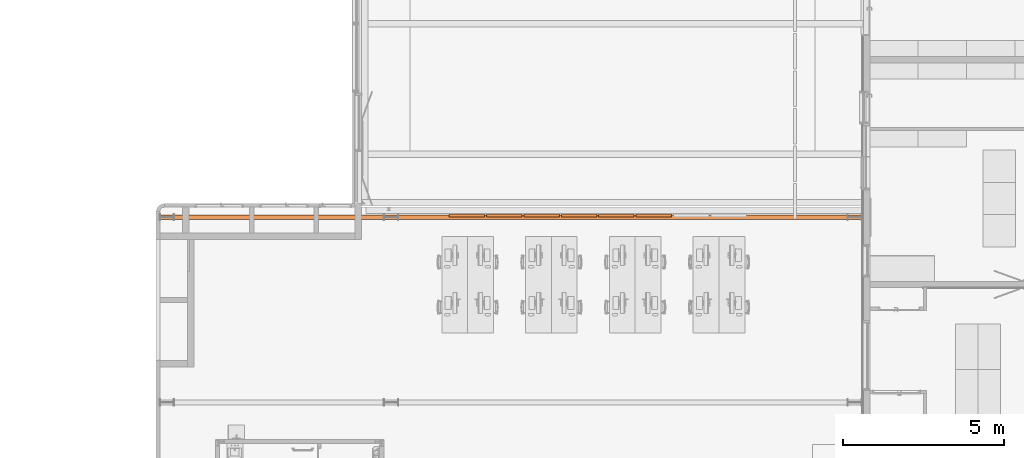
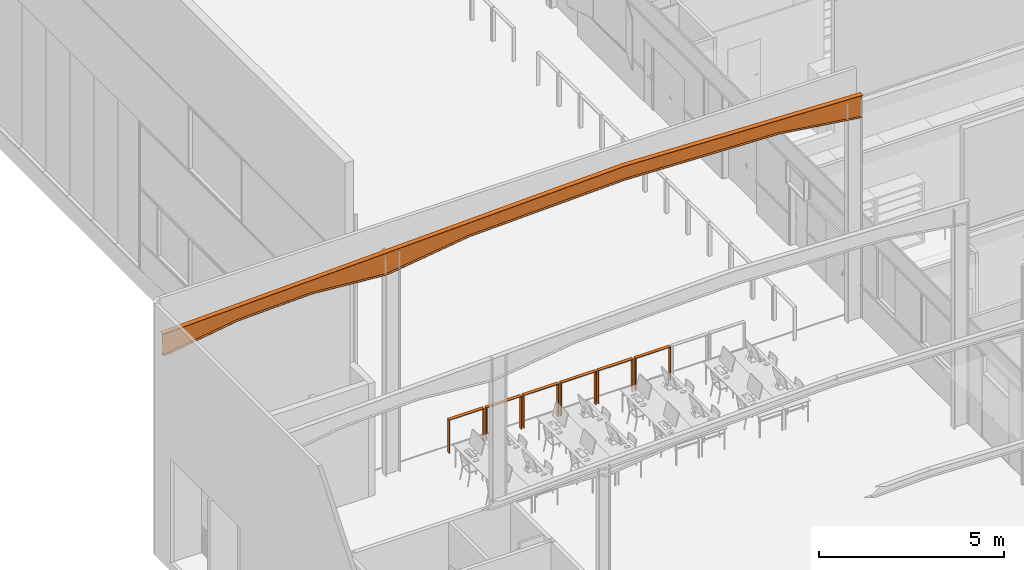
# One storey, part 133 of 137: 7 proxies.
"""IFC2X3 building model written with IfcOpenShell, lengths in centimetres."""

import ifcopenshell
import ifcopenshell.guid

model = None  # the IFC model being written
_history = None  # IfcOwnerHistory: only IFC2X3 demands one
_inside = {}  # id of a spatial element -> (the spatial element, [elements in it])
_under = {}  # id of a project, library or spatial element -> (it, [spatial elements below it])
_declared = {}  # id of a project -> (the project, [libraries it declares])
_typed = {}  # id of a type object -> (the type object, [elements of that type])
_made_of = {}  # id of a material, layer set ... -> (it, [elements and type objects made of it])


def new_model(schema):
    """Start an empty IFC model of exactly this schema.

    Asked for "IFC4X3", IfcOpenShell would pick the latest addendum, in which some entities
    have other attributes; the version numbers below select the first issue.
    IFC2X3 requires an IfcOwnerHistory on every rooted entity: one is made here for all.
    """
    global model, _history
    if schema == "IFC4X3":
        model = ifcopenshell.file(schema_version=(4, 3, 0, 0))
    else:
        model = ifcopenshell.file(schema=schema)
    _inside.clear()
    _under.clear()
    _declared.clear()
    _typed.clear()
    _made_of.clear()
    _history = None
    if model.schema == "IFC2X3":
        org = make("IfcOrganization", Name="unknown")
        user = make(
            "IfcPersonAndOrganization",
            ThePerson=make("IfcPerson", FamilyName="unknown"),
            TheOrganization=org,
        )
        app = make(
            "IfcApplication",
            ApplicationDeveloper=org,
            Version="unknown",
            ApplicationFullName="unknown",
            ApplicationIdentifier="unknown",
        )
        _history = make(
            "IfcOwnerHistory",
            OwningUser=user,
            OwningApplication=app,
            ChangeAction="ADDED",
            CreationDate=0,
        )
    return model


def make(cls, **values):
    """One entity of the class cls with the attributes given. An attribute that is None is left unset."""
    return model.create_entity(
        cls, **{name: value for name, value in values.items() if value is not None}
    )


def entity(cls, *values):
    """Any entity or typed value of the class cls, its attributes in the order of the schema. None: left unset."""
    e = model.create_entity(cls)
    for i, value in enumerate(values):
        if value is not None:
            e[i] = value
    return e


def rooted(cls, **values):
    """An entity with a GlobalId (a new one), such as an element, a storey or a relation."""
    return make(cls, GlobalId=ifcopenshell.guid.new(), OwnerHistory=_history, **values)


def si_unit(unit_type, name, prefix=None):
    """IfcSIUnit, for example si_unit("LENGTHUNIT", "METRE", prefix="MILLI")."""
    return make("IfcSIUnit", UnitType=unit_type, Prefix=prefix, Name=name)


def converted_unit(unit_type, name, factor, base, dimensions=None, offset=None):
    """IfcConversionBasedUnit, such as the inch: factor (a typed value) times the base unit."""
    return make(
        "IfcConversionBasedUnit"
        if offset is None
        else "IfcConversionBasedUnitWithOffset",
        ConversionOffset=offset,
        Dimensions=None
        if dimensions is None
        else entity("IfcDimensionalExponents", *dimensions),
        UnitType=unit_type,
        Name=name,
        ConversionFactor=make(
            "IfcMeasureWithUnit", ValueComponent=factor, UnitComponent=base
        ),
    )


def derived_unit(unit_type, elements):
    """IfcDerivedUnit: a product of units, each with its exponent."""
    return make(
        "IfcDerivedUnit",
        Elements=[
            make("IfcDerivedUnitElement", Unit=unit, Exponent=power)
            for unit, power in elements
        ],
        UnitType=unit_type,
    )


def assignment(units):
    """IfcUnitAssignment: the units of a project."""
    return None if units is None else make("IfcUnitAssignment", Units=units)


def point(xyz):
    """IfcCartesianPoint."""
    return None if xyz is None else make("IfcCartesianPoint", Coordinates=xyz)


def direction(xyz):
    """IfcDirection."""
    return None if xyz is None else make("IfcDirection", DirectionRatios=xyz)


def frame(location, z_axis=None, x_axis=None):
    """IfcAxis2Placement3D, a coordinate frame: its origin and axes. An axis left out is left unset."""
    return make(
        "IfcAxis2Placement3D",
        Location=point(location),
        Axis=direction(z_axis),
        RefDirection=direction(x_axis),
    )


def frame_2d(location, x_axis=None):
    """IfcAxis2Placement2D, a coordinate frame in the plane: its origin and x axis."""
    return make(
        "IfcAxis2Placement2D", Location=point(location), RefDirection=direction(x_axis)
    )


def origin():
    """The frame at (0, 0, 0) with its axes left unset."""
    return frame((0.0, 0.0, 0.0))


def place(relative_to, where):
    """IfcLocalPlacement: puts the frame where relative to a parent placement (None: the world)."""
    return make(
        "IfcLocalPlacement", PlacementRelTo=relative_to, RelativePlacement=where
    )


def context(
    kind, dimensions, precision=None, world=None, true_north=None, identifier=None
):
    """IfcGeometricRepresentationContext, for example the 3D "Model" context."""
    return make(
        "IfcGeometricRepresentationContext",
        ContextIdentifier=identifier,
        ContextType=kind,
        CoordinateSpaceDimension=dimensions,
        Precision=precision,
        WorldCoordinateSystem=world,
        TrueNorth=true_north,
    )


def subcontext(parent, identifier, kind, view, scale=None):
    """IfcGeometricRepresentationSubContext, for example "Body" below "Model"."""
    return make(
        "IfcGeometricRepresentationSubContext",
        ContextIdentifier=identifier,
        ContextType=kind,
        ParentContext=parent,
        TargetScale=scale,
        TargetView=view,
    )


def project(units=None, contexts=None):
    """IfcProject with its units and contexts."""
    return rooted(
        "IfcProject",
        Name="project",
        RepresentationContexts=contexts,
        UnitsInContext=assignment(units),
    )


def spatial(cls, under=None, at=None, **own):
    """A site, building, storey or space (cls), placed at a placement, below another one or the project."""
    s = rooted(cls, ObjectPlacement=at, **own)
    if under is not None:
        _under.setdefault(under.id(), (under, []))[1].append(s)
    return s


def polyline(points):
    """IfcPolyline through the points."""
    return make("IfcPolyline", Points=[point(p) for p in points])


def profile(cls, at=None, kind="AREA", **sizes):
    """A parametric profile (cls). Its sizes go by their IFC names, for example OverallWidth=200.0."""
    return make(cls, ProfileType=kind, Position=at, **sizes)


def rectangle(**sizes):
    """IfcRectangleProfileDef."""
    return profile("IfcRectangleProfileDef", **sizes)


def outline(outer, holes=None, kind="AREA"):
    """IfcArbitraryClosedProfileDef: a profile drawn as a closed curve; with holes, ...WithVoids."""
    if holes is None:
        return make("IfcArbitraryClosedProfileDef", ProfileType=kind, OuterCurve=outer)
    return make(
        "IfcArbitraryProfileDefWithVoids",
        ProfileType=kind,
        OuterCurve=outer,
        InnerCurves=holes,
    )


def extrude(swept, where, along, depth):
    """IfcExtrudedAreaSolid: the profile swept, set in the frame where, extruded along a direction by depth."""
    return make(
        "IfcExtrudedAreaSolid",
        SweptArea=swept,
        Position=where,
        ExtrudedDirection=direction(along),
        Depth=depth,
    )


def shape(context_of_items, identifier, shape_type, items):
    """IfcShapeRepresentation: the items that make up one representation, for example the "Body"."""
    return make(
        "IfcShapeRepresentation",
        ContextOfItems=context_of_items,
        RepresentationIdentifier=identifier,
        RepresentationType=shape_type,
        Items=items,
    )


def source(mapping_origin, context_of_items, identifier, shape_type, items):
    """IfcRepresentationMap: a shape defined once, which mapped items show again and again."""
    return make(
        "IfcRepresentationMap",
        MappingOrigin=mapping_origin,
        MappedRepresentation=shape(context_of_items, identifier, shape_type, items),
    )


def transform(
    local_origin,
    x_axis=None,
    y_axis=None,
    z_axis=None,
    scale=None,
    scale2=None,
    scale3=None,
    uniform=True,
):
    """IfcCartesianTransformationOperator3D, or its non-uniform kind. x_axis, y_axis, z_axis: its Axis1, 2, 3."""
    if uniform:
        return make(
            "IfcCartesianTransformationOperator3D",
            Axis1=direction(x_axis),
            Axis2=direction(y_axis),
            LocalOrigin=point(local_origin),
            Scale=scale,
            Axis3=direction(z_axis),
        )
    return make(
        "IfcCartesianTransformationOperator3DnonUniform",
        Axis1=direction(x_axis),
        Axis2=direction(y_axis),
        LocalOrigin=point(local_origin),
        Scale=scale,
        Axis3=direction(z_axis),
        Scale2=scale2,
        Scale3=scale3,
    )


def mapped(mapping_source, mapping_target):
    """IfcMappedItem: shows the shape of a source again, moved by a transform."""
    return make(
        "IfcMappedItem", MappingSource=mapping_source, MappingTarget=mapping_target
    )


def made_of(thing, what):
    """Note that an element or type object is made of a material, layer set ...; save() writes the relation."""
    if what is not None:
        _made_of.setdefault(what.id(), (what, []))[1].append(thing)
    return thing


def type_object(cls, material=None, **own):
    """A type object (cls), such as IfcWallType, which elements share."""
    return made_of(rooted(cls, **own), material)


def type_shapes(of_type, sources):
    """Give a type object the sources (RepresentationMaps) that its elements show as mapped items."""
    of_type.RepresentationMaps = sources


def element(
    cls,
    number,
    at=None,
    inside=None,
    cuts=None,
    type_object=None,
    material=None,
    context=None,
    identifier="Body",
    shape_type=None,
    held_by="IfcProductDefinitionShape",
    body=None,
    shapes=None,
    **own,
):
    """One element of the class cls, such as IfcWall. Its Tag is "e" and its number.

    at: its placement. inside: the storey or other place that contains it. cuts: it is an
    opening in that element (IfcRelVoidsElement). A single representation is given by context,
    identifier, shape_type and body (its items); several are given by shapes. held_by: the class
    of the entity that holds the representations. save() writes the other relations.
    """
    e = rooted(cls, Tag="e%d" % number, ObjectPlacement=at, **own)
    if body is not None:
        shapes = [shape(context, identifier, shape_type, body)]
    if shapes is not None:
        e.Representation = make(held_by, Representations=shapes)
    if inside is not None:
        _inside.setdefault(inside.id(), (inside, []))[1].append(e)
    if cuts is not None:
        rooted(
            "IfcRelVoidsElement", RelatingBuildingElement=cuts, RelatedOpeningElement=e
        )
    if type_object is not None:
        _typed.setdefault(type_object.id(), (type_object, []))[1].append(e)
    return made_of(e, material)


def aggregate(whole, parts):
    """IfcRelAggregates: a whole, such as a stair, and the parts it consists of."""
    return rooted("IfcRelAggregates", RelatingObject=whole, RelatedObjects=parts)


def save(model, path):
    """Write the relations noted so far, then the file.

    IfcRelAggregates (storeys below a building ...), IfcRelContainedInSpatialStructure (elements
    in a storey), IfcRelDefinesByType, IfcRelAssociatesMaterial and IfcRelDeclares: one each for
    every whole, place, type object, material and project.
    """
    for whole, parts in _under.values():
        aggregate(whole, parts)
    for where, things in _inside.values():
        rooted(
            "IfcRelContainedInSpatialStructure",
            RelatedElements=things,
            RelatingStructure=where,
        )
    for kind, things in _typed.values():
        rooted("IfcRelDefinesByType", RelatedObjects=things, RelatingType=kind)
    for what, things in _made_of.values():
        rooted("IfcRelAssociatesMaterial", RelatedObjects=things, RelatingMaterial=what)
    for by, libraries in _declared.values():
        rooted("IfcRelDeclares", RelatingContext=by, RelatedDefinitions=libraries)
    model.write(path)


model = new_model("IFC2X3")

# Units and contexts
model_context = context("Model", 3, precision=0.001, world=origin(), true_north=direction((6.12303176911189e-17, 1.0)))
body_context = subcontext(model_context, "Body", "Model", "MODEL_VIEW")
ifc_project = project(units=[si_unit("LENGTHUNIT", "METRE", prefix="CENTI"), si_unit("AREAUNIT", "SQUARE_METRE"), si_unit("VOLUMEUNIT", "CUBIC_METRE"), converted_unit("PLANEANGLEUNIT", "DEGREE", entity("IfcRatioMeasure", 0.0174532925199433), si_unit("PLANEANGLEUNIT", "RADIAN"), dimensions=[0, 0, 0, 0, 0, 0, 0]), si_unit("MASSUNIT", "GRAM", prefix="KILO"), si_unit("TIMEUNIT", "SECOND"), si_unit("FREQUENCYUNIT", "HERTZ"), si_unit("THERMODYNAMICTEMPERATUREUNIT", "DEGREE_CELSIUS"), derived_unit("THERMALTRANSMITTANCEUNIT", [(si_unit("MASSUNIT", "GRAM", prefix="KILO"), 1), (si_unit("THERMODYNAMICTEMPERATUREUNIT", "KELVIN"), -1), (si_unit("TIMEUNIT", "SECOND"), -3)]), derived_unit("VOLUMETRICFLOWRATEUNIT", [(si_unit("LENGTHUNIT", "METRE"), 3), (si_unit("TIMEUNIT", "SECOND"), -1)]), si_unit("ELECTRICCURRENTUNIT", "AMPERE"), si_unit("ELECTRICVOLTAGEUNIT", "VOLT"), si_unit("POWERUNIT", "WATT"), si_unit("FORCEUNIT", "NEWTON", prefix="KILO"), si_unit("ILLUMINANCEUNIT", "LUX"), si_unit("LUMINOUSFLUXUNIT", "LUMEN"), si_unit("LUMINOUSINTENSITYUNIT", "CANDELA"), derived_unit("USERDEFINED", [(si_unit("MASSUNIT", "GRAM", prefix="KILO"), -1), (si_unit("LENGTHUNIT", "METRE"), -2), (si_unit("TIMEUNIT", "SECOND"), 3), (si_unit("LUMINOUSFLUXUNIT", "LUMEN"), 1)]), derived_unit("LINEARVELOCITYUNIT", [(si_unit("LENGTHUNIT", "METRE"), 1), (si_unit("TIMEUNIT", "SECOND"), -1)]), si_unit("PRESSUREUNIT", "PASCAL"), derived_unit("USERDEFINED", [(si_unit("LENGTHUNIT", "METRE"), -2), (si_unit("MASSUNIT", "GRAM", prefix="KILO"), 1), (si_unit("TIMEUNIT", "SECOND"), -2)])], contexts=[model_context])

# Site, building, storey
site_placement = place(None, frame((8.62739174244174, -249.285249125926, 0.0)))
site = spatial("IfcSite", under=ifc_project, at=site_placement, Name="Default", CompositionType="ELEMENT")
building_placement = place(site_placement, origin())
building = spatial("IfcBuilding", under=site, at=building_placement, CompositionType="ELEMENT")
storey_placement = place(building_placement, origin())
storey = spatial("IfcBuildingStorey", under=building, at=storey_placement, Name="RDC", CompositionType="ELEMENT", Elevation=-8.82465566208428e-11)

# Proxy
shared_shape_1 = source(origin(), body_context, "Body", "SweptSolid", [
    extrude(outline(polyline([(8.95434758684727, -116.301011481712), (9.96650108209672, -116.301011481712), (-8.95434758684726, 116.301011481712), (-9.96650108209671, 116.301011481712), (8.95434758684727, -116.301011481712)])), frame((1319.78464007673, -8.0, -82.1577671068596), z_axis=(0.0, 1.0, 0.0), x_axis=(-0.0697564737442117, 0.0, -0.997564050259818)), (0.0, 0.0, 1.0), 15.0000000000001),
    extrude(outline(polyline([(-115.9, -29.2567540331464), (115.9, -29.2567540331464), (115.9, 42.7702620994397), (-115.9, 15.7432459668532), (-115.9, -29.2567540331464)])), frame((1320.840988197, -1.0, -52.4139915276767), z_axis=(0.0, 1.0, 0.0), x_axis=(0.999390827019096, 0.0, -0.0348994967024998)), (0.0, 0.0, 1.0), 0.999999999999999),
    extrude(rectangle(XDim=0.999999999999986, YDim=14.9999999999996, at=frame_2d((0.0, 4.44089209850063e-16), x_axis=(1.0, 0.0))), frame((972.785916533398, -0.499999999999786, -56.5127875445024), z_axis=(0.999390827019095, 0.0, -0.0348994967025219), x_axis=(-0.0348994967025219, 0.0, -0.999390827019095)), (0.0, 0.0, 1.0), 231.799999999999),
    extrude(rectangle(XDim=0.999999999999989, YDim=14.9999999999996, at=frame_2d((1.69309011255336e-15, 4.44089209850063e-16), x_axis=(1.0, 0.0))), frame((-0.0174497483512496, -0.4999999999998, 23.4862936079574), z_axis=(0.999390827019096, 0.0, -0.0348994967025), x_axis=(-0.0348994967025, 0.0, -0.999390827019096)), (0.0, 0.0, 1.0), 743.202688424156),
    extrude(outline(polyline([(13.0095923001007, -128.825000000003), (14.0174238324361, -128.825000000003), (-13.0095923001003, 128.825000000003), (-14.0174238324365, 128.825000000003), (13.0095923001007, -128.825000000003)])), frame((611.908848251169, -8.0, -57.4363459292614), z_axis=(0.0, 1.0, 0.0), x_axis=(-0.0348994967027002, 0.0, -0.999390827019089)), (0.0, 0.0, 1.0), 15.0000000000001),
    extrude(outline(polyline([(-128.825, -29.2567540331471), (128.825, -29.2567540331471), (128.825, 42.7702620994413), (-128.825, 15.7432459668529), (-128.825, -29.2567540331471)])), frame((612.947480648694, -1.0, -27.6938055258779), z_axis=(0.0, 1.0, 0.0), x_axis=(0.999390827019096, 0.0, -0.0348994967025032)), (0.0, 0.0, 1.0), 0.999999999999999),
    extrude(rectangle(XDim=45.0, YDim=1.00000000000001, at=frame_2d((0.0, 0.0), x_axis=(0.0, 1.0))), frame((-0.820138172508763, -0.499999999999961, 0.500304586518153), z_axis=(0.999390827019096, 0.0, -0.0348994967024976), x_axis=(0.0, 1.0, 0.0)), (0.0, 0.0, 1.0), 485.55268842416),
    extrude(outline(polyline([(-241.964436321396, -0.499999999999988), (241.94697593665, -0.499999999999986), (241.981896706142, 0.499999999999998), (-241.964436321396, 0.499999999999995), (-241.964436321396, -0.499999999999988)])), frame((241.81703812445, -8.0, -30.9867918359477), z_axis=(0.0, 1.0, 0.0), x_axis=(-0.999390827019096, 0.0, 0.0348994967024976)), (0.0, 0.0, 1.0), 14.9999999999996),
    extrude(rectangle(XDim=0.999999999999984, YDim=14.9999999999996, at=frame_2d((-4.21884749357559e-15, 0.0), x_axis=(1.0, 0.0))), frame((-742.732499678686, -0.499999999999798, -2.45110616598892), z_axis=(0.999390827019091, 0.0, 0.0348994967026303), x_axis=(0.0348994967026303, 0.0, -0.999390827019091)), (0.0, 0.0, 1.0), 743.20268842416),
    extrude(outline(polyline([(-116.644121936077, -0.504410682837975), (116.7261838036, -0.50441068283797), (116.644121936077, 0.504410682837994), (-116.7261838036, 0.504410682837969), (-116.644121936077, -0.504410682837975)])), frame((856.502354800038, -8.0, -65.9795932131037), z_axis=(0.0, 1.0, 0.0), x_axis=(0.996707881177, 0.0, 0.0810765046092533)), (0.0, 0.0, 1.0), 15.0000000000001),
    extrude(outline(polyline([(-29.2567540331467, -115.9), (15.7432459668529, -115.9), (42.7702620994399, 115.9), (-29.2567540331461, 115.9), (-29.2567540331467, -115.9)])), frame((857.523400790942, -1.0, -36.2345848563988), z_axis=(0.0, 1.0, 0.0), x_axis=(-0.0348994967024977, 0.0, -0.999390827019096)), (0.0, 0.0, 1.0), 0.999999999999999),
    extrude(outline(polyline([(-129.479260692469, -0.501165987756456), (129.584403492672, -0.501165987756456), (129.479260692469, 0.501165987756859), (-129.584403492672, 0.501165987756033), (-129.479260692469, -0.501165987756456)])), frame((-611.908848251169, -8.0, -57.4363459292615), z_axis=(0.0, 1.0, 0.0), x_axis=(0.990296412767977, 0.0, 0.138971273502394)), (0.0, 0.0, 1.0), 15.0000000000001),
    extrude(outline(polyline([(-29.2567540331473, -128.825), (15.7432459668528, -128.825), (42.7702620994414, 128.825), (-29.256754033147, 128.825), (-29.2567540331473, -128.825)])), frame((-612.947480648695, -1.0, -27.6938055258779), z_axis=(0.0, 1.0, 0.0), x_axis=(0.0348994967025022, 0.0, -0.999390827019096)), (0.0, 0.0, 1.0), 0.999999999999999),
    extrude(rectangle(XDim=44.9999999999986, YDim=1.00000000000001, at=frame_2d((0.0, -5.32907051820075e-15), x_axis=(0.0, 1.0))), frame((973.588604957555, -0.499999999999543, -33.5267985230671), z_axis=(0.999390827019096, 0.0, -0.0348994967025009), x_axis=(0.0, 1.0, 0.0)), (0.0, 0.0, 1.0), 231.8),
    extrude(rectangle(XDim=0.999999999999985, YDim=15.0, at=frame_2d((-4.16333634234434e-16, 8.88178419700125e-16), x_axis=(1.0, 0.0))), frame((742.732499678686, -0.499999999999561, -2.45110616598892), z_axis=(0.999390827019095, 0.0, -0.034899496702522), x_axis=(-0.034899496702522, 0.0, -0.999390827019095)), (0.0, 0.0, 1.0), 695.399999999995),
    extrude(rectangle(XDim=45.0, YDim=1.00000000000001, at=frame_2d((0.0, 1.77635683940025e-15), x_axis=(0.0, 1.0))), frame((-484.436764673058, -0.499999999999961, -16.4452398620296), z_axis=(0.999390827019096, 0.0, 0.0348994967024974), x_axis=(0.0, 1.0, 0.0)), (0.0, 0.0, 1.0), 485.55268842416),
    extrude(outline(polyline([(-0.499999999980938, -241.964436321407), (0.500000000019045, -241.964436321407), (0.49999999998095, 241.981896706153), (-0.500000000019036, 241.946975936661), (-0.499999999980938, -241.964436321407)])), frame((-241.817038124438, -8.0, -30.9867918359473), z_axis=(0.0, 1.0, 0.0), x_axis=(-0.0348994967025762, 0.0, 0.999390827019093)), (0.0, 0.0, 1.0), 14.9999999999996),
])
proxy_placement = place(storey_placement, frame((2291.15487837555, 3511.48020806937, 736.951410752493), z_axis=(0.0, 0.0, 1.0), x_axis=(-1.0, 0.0, 0.0)))
element("IfcBuildingElementProxy", 1, at=proxy_placement, inside=storey, Name="Portique_11:Portique_1-2", ObjectType="Portique_1-2", context=body_context, shape_type="MappedRepresentation", body=[
    mapped(shared_shape_1, transform((0.0, 0.0, 0.0), scale=1.0)),
])

# Space
space_placement = place(storey_placement, origin())
space = spatial("IfcSpace", under=storey, at=space_placement, Name="089", CompositionType="ELEMENT", InteriorOrExteriorSpace="INTERNAL")

# Proxies
building_element_proxy_type = type_object("IfcBuildingElementProxyType", Name="garde-corps-demontable", PredefinedType="NOTDEFINED")
shared_shape_2 = source(origin(), body_context, "Body", "SweptSolid", [
    extrude(outline(polyline([(-55.5, -55.0), (54.5, -55.0), (54.5000000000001, -53.0), (-53.5000000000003, -53.0), (-53.5, 53.0), (54.5, 53.0), (54.5000000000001, 55.0), (-55.5, 55.0), (-55.5, -55.0)])), frame((0.0, 55.0, 54.5000000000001), z_axis=(1.0, 0.0, 0.0), x_axis=(0.0, 0.0, -1.0)), (0.0, 0.0, 1.0), 10.0),
])
type_shapes(building_element_proxy_type, [shared_shape_2])
for number, where, z_axis, x_axis, name in (
    (2, (2438.78298082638, 3511.98020806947, 0.0), (0.0, 0.0, 1.0), (0.0, 1.0, 0.0), "garde-corps-demontable:garde-corps-demontable"),
    (3, (2322.78298082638, 3511.98020806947, 0.0), (0.0, 0.0, 1.0), (0.0, 1.0, 0.0), "garde-corps-demontable:garde-corps-demontable"),
    (4, (2206.78298082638, 3511.98020806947, 0.0), (0.0, 0.0, 1.0), (0.0, 1.0, 0.0), "garde-corps-demontable:garde-corps-demontable"),
    (5, (2090.78298082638, 3511.98020806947, 0.0), (0.0, 0.0, 1.0), (0.0, 1.0, 0.0), "garde-corps-demontable:garde-corps-demontable"),
    (6, (1974.78298082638, 3511.98020806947, 0.0), (0.0, 0.0, 1.0), (0.0, 1.0, 0.0), "garde-corps-demontable:garde-corps-demontable"),
    (7, (1858.78298082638, 3511.98020806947, 0.0), (0.0, 0.0, 1.0), (0.0, 1.0, 0.0), "garde-corps-demontable:garde-corps-demontable"),
):
    element("IfcBuildingElementProxy", number, at=place(space_placement, frame(where, z_axis=z_axis, x_axis=x_axis)), inside=space, type_object=building_element_proxy_type, Name=name, ObjectType="garde-corps-demontable", context=body_context, shape_type="MappedRepresentation", body=[
        mapped(shared_shape_2, transform((0.0, 0.0, 0.0), scale=1.0)),
    ])

save(model, "model.ifc")
